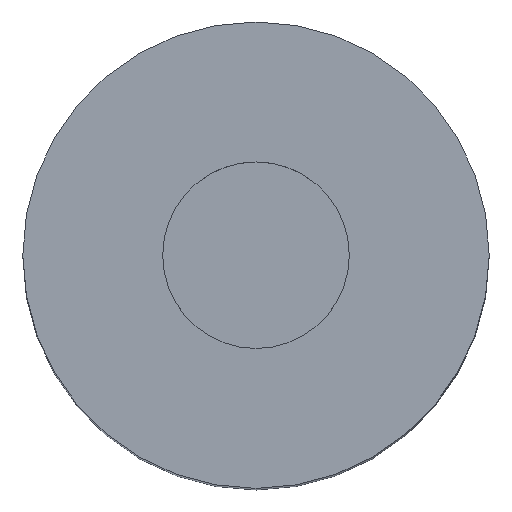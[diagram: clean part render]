
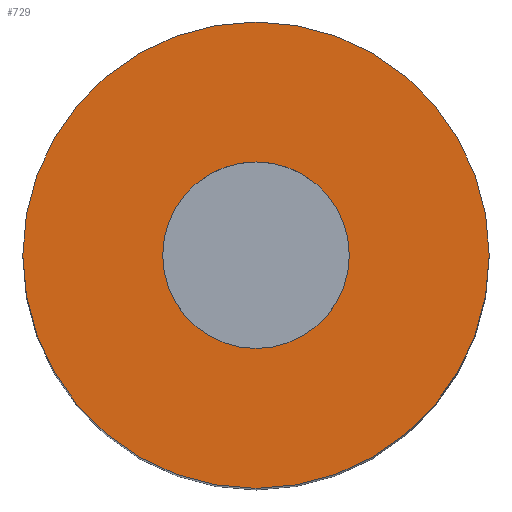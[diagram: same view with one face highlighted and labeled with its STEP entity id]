
A CAD part, top view. The second image highlights one B-rep face of the part: STEP entity #729.
In plain terms, the highlighted planar face has unit normal (0, 0, 1) as drawn and (0, -1, 0) by its records, which use the part's own axes.
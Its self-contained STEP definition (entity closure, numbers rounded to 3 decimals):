
#336 = AXIS2_PLACEMENT_3D ( 'NONE', #453, #452, #451 ) ;
#337 = CIRCLE ( 'NONE', #336, 0.5 ) ;
#360 = DIRECTION ( 'NONE',  ( 0., 0., 1. ) ) ;
#361 = DIRECTION ( 'NONE',  ( 0., 1., 0. ) ) ;
#362 = CARTESIAN_POINT ( 'NONE',  ( 0., 0., 0. ) ) ;
#363 = AXIS2_PLACEMENT_3D ( 'NONE', #362, #361, #360 ) ;
#364 = CIRCLE ( 'NONE', #363, 1.25 ) ;
#391 = CARTESIAN_POINT ( 'NONE',  ( 0., 0., -1.25 ) ) ;
#392 = DIRECTION ( 'NONE',  ( 0., 0., 1. ) ) ;
#393 = DIRECTION ( 'NONE',  ( 0., 1., 0. ) ) ;
#394 = CARTESIAN_POINT ( 'NONE',  ( 0., 0., 0. ) ) ;
#395 = AXIS2_PLACEMENT_3D ( 'NONE', #394, #393, #392 ) ;
#396 = CIRCLE ( 'NONE', #395, 1.25 ) ;
#397 = CARTESIAN_POINT ( 'NONE',  ( 0., 0., 1.25 ) ) ;
#451 = DIRECTION ( 'NONE',  ( 0., 0., 1. ) ) ;
#452 = DIRECTION ( 'NONE',  ( 0., 1., 0. ) ) ;
#453 = CARTESIAN_POINT ( 'NONE',  ( 0., 0., 0. ) ) ;
#476 = DIRECTION ( 'NONE',  ( 0., 0., 1. ) ) ;
#477 = DIRECTION ( 'NONE',  ( 0., 1., 0. ) ) ;
#478 = CARTESIAN_POINT ( 'NONE',  ( 0., 0., 0. ) ) ;
#479 = AXIS2_PLACEMENT_3D ( 'NONE', #478, #477, #476 ) ;
#480 = PLANE ( 'NONE',  #479 ) ;
#481 = FACE_BOUND ( 'NONE', #641, .T. ) ;
#482 = FACE_OUTER_BOUND ( 'NONE', #730, .T. ) ;
#500 = CARTESIAN_POINT ( 'NONE',  ( 0., 0., -0.5 ) ) ;
#501 = DIRECTION ( 'NONE',  ( 0., 0., 1. ) ) ;
#502 = DIRECTION ( 'NONE',  ( 0., 1., 0. ) ) ;
#503 = CARTESIAN_POINT ( 'NONE',  ( 0., 0., 0. ) ) ;
#504 = AXIS2_PLACEMENT_3D ( 'NONE', #503, #502, #501 ) ;
#505 = CIRCLE ( 'NONE', #504, 0.5 ) ;
#506 = CARTESIAN_POINT ( 'NONE',  ( 0., 0., 0.5 ) ) ;
#633 = VERTEX_POINT ( 'NONE', #397 ) ;
#635 = EDGE_CURVE ( 'NONE', #633, #636, #396, .T. ) ;
#636 = VERTEX_POINT ( 'NONE', #391 ) ;
#640 = ORIENTED_EDGE ( 'NONE', *, *, #635, .F. ) ;
#641 = EDGE_LOOP ( 'NONE', ( #642, #643 ) ) ;
#642 = ORIENTED_EDGE ( 'NONE', *, *, #672, .T. ) ;
#643 = ORIENTED_EDGE ( 'NONE', *, *, #682, .T. ) ;
#670 = VERTEX_POINT ( 'NONE', #506 ) ;
#672 = EDGE_CURVE ( 'NONE', #673, #670, #505, .T. ) ;
#673 = VERTEX_POINT ( 'NONE', #500 ) ;
#682 = EDGE_CURVE ( 'NONE', #670, #673, #337, .T. ) ;
#729 = ADVANCED_FACE ( 'NONE', ( #482, #481 ), #480, .F. ) ;
#730 = EDGE_LOOP ( 'NONE', ( #731, #640 ) ) ;
#731 = ORIENTED_EDGE ( 'NONE', *, *, #732, .F. ) ;
#732 = EDGE_CURVE ( 'NONE', #636, #633, #364, .T. ) ;
